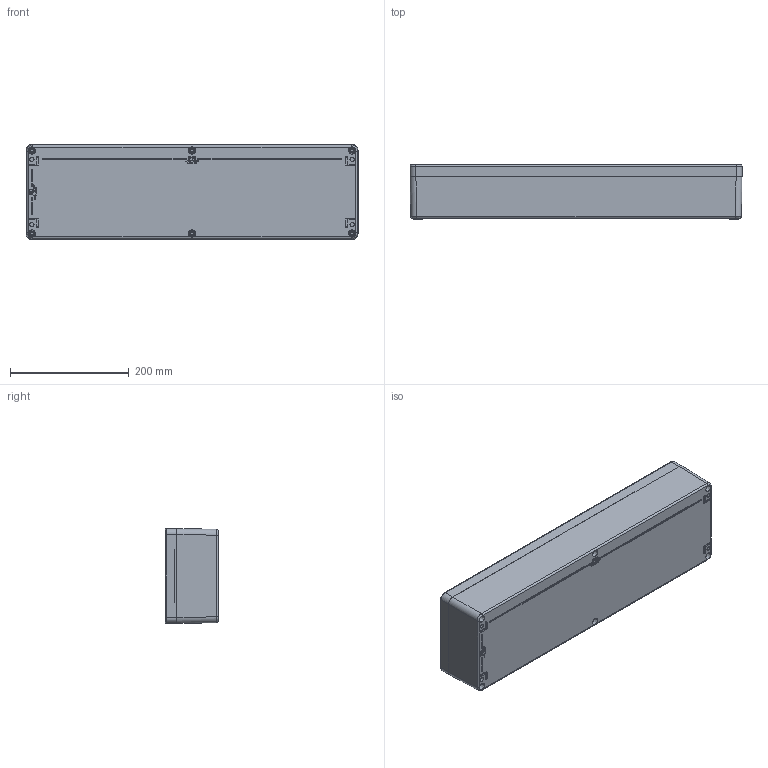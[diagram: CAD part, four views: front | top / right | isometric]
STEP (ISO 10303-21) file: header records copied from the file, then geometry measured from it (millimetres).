
FILE_DESCRIPTION((''),'2;1');
FILE_NAME('1330000000_ASM','2022-09-07T12:36:21',('silke.otte'),(''),'CREO PARAMETRIC BY PTC INC, 2018300','CREO PARAMETRIC BY PTC INC, 2018300','');
FILE_SCHEMA(('AUTOMOTIVE_DESIGN { 1 0 10303 214 1 1 1 1 }'));
Products named in the file (11): 9301015000_AF0; 9261018000; 9601381000_ASM; 9601568000_ASM; 9302026000_AF0; 9261116000; 9611144000_ASM; 9611325000_DICHTUNG; 9611325000_ASM; 9261021000; 1330000000_ASM
Assembly tree (18 placements, depth 4):
  1330000000_ASM
    9601568000_ASM
      9601381000_ASM
        9301015000_AF0
        9261018000  x4
    9611325000_ASM
      9611144000_ASM
        9302026000_AF0
        9261116000
      9611325000_DICHTUNG
    9261021000  x6
Bounding box: 560 x 91 x 160 mm (x, y, z)
Volume: 1434092.3 mm3; surface area: 668605.7 mm2
Topology: 19 solids, 43 shells, 2351 faces, 6018 edges, 3795 vertices
Faces by surface type: plane 1203, cylinder 631, cone 242, torus 172, bspline 102, sphere 1
Entity records: 87797 total; most frequent: CARTESIAN_POINT 24689, DIRECTION 9323, ORIENTED_EDGE 9236, PRESENTATION_STYLE_ASSIGNMENT 4679, STYLED_ITEM 4674, CURVE_STYLE 4653, EDGE_CURVE 4650, AXIS2_PLACEMENT_3D 3172
